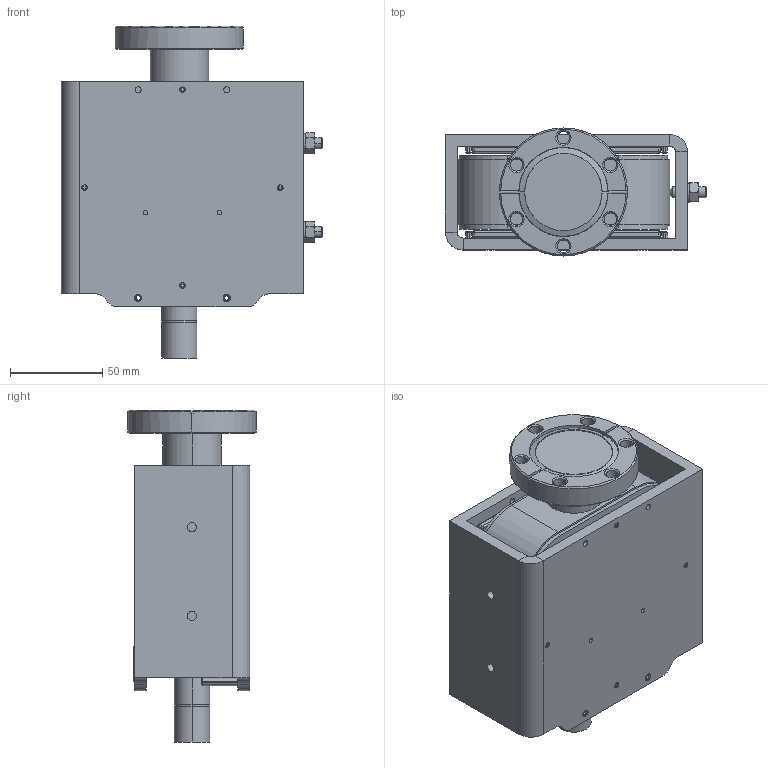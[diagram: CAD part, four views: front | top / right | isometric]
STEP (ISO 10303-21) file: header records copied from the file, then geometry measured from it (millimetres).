
FILE_DESCRIPTION((''),'2;1');
FILE_NAME('ASM0004_SW0003','2008-08-18T',('gollab'),('Gamma Vacuum, LLC'),'PRO/ENGINEER BY PARAMETRIC TECHNOLOGY CORPORATION, 2006080','PRO/ENGINEER BY PARAMETRIC TECHNOLOGY CORPORATION, 2006080','');
FILE_SCHEMA(('CONFIG_CONTROL_DESIGN'));
Length unit declared in the file: millimetre
Products named in the file (1): ASM0004_SW0003
Bounding box: 141.35 x 69.34 x 179.7 mm (x, y, z)
Volume: 481598.3 mm3; surface area: 195787 mm2
Topology: 4 solids, 4 shells, 671 faces, 1698 edges, 1083 vertices
Faces by surface type: plane 299, cylinder 230, cone 100, torus 26, sphere 16
Entity records: 23529 total; most frequent: CARTESIAN_POINT 7099, DIRECTION 3448, ORIENTED_EDGE 3392, EDGE_CURVE 1696, AXIS2_PLACEMENT_3D 1273, VERTEX_POINT 1083, VECTOR 902, LINE 902
